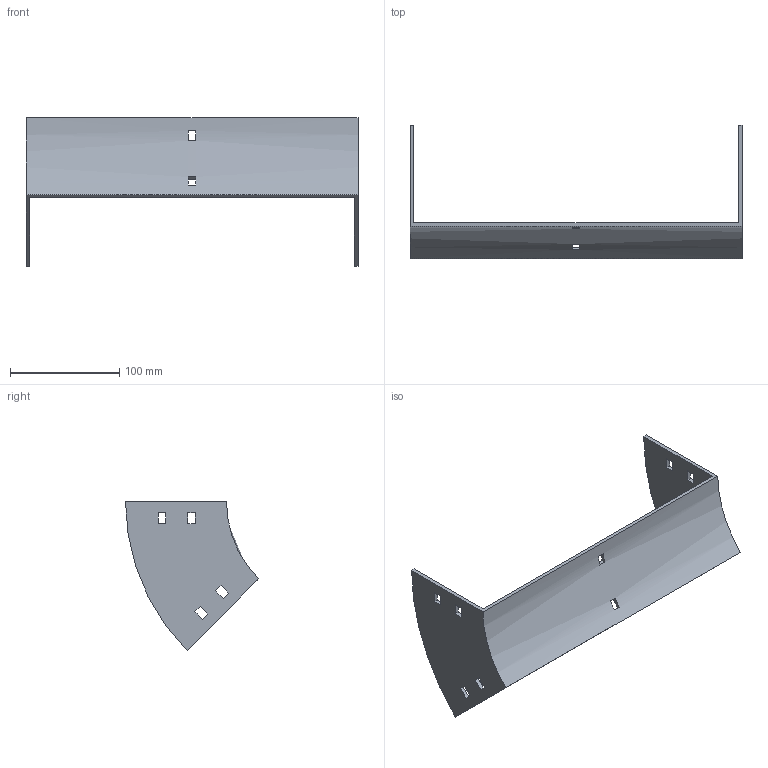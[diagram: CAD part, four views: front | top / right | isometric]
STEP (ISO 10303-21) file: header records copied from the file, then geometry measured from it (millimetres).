
FILE_DESCRIPTION (( 'STEP AP214' ), '1' );
FILE_NAME ('34B1I300.step', '2025-02-21T09:30:11', ( '' ), ( '' ), 'SwSTEP 2.0', 'SolidWorks 2023', '' );
FILE_SCHEMA (( 'AUTOMOTIVE_DESIGN' ));
Length unit declared in the file: millimetre
Products named in the file (1): 34B1I300
Bounding box: 304 x 121.79 x 136.12 mm (x, y, z)
Volume: 155070.5 mm3; surface area: 94206.5 mm2
Topology: 1 solids, 1 shells, 50 faces, 144 edges, 96 vertices
Faces by surface type: plane 46, cylinder 4
Entity records: 1687 total; most frequent: CARTESIAN_POINT 291, ORIENTED_EDGE 288, DIRECTION 262, EDGE_CURVE 144, VECTOR 128, LINE 128, VERTEX_POINT 96, EDGE_LOOP 70
